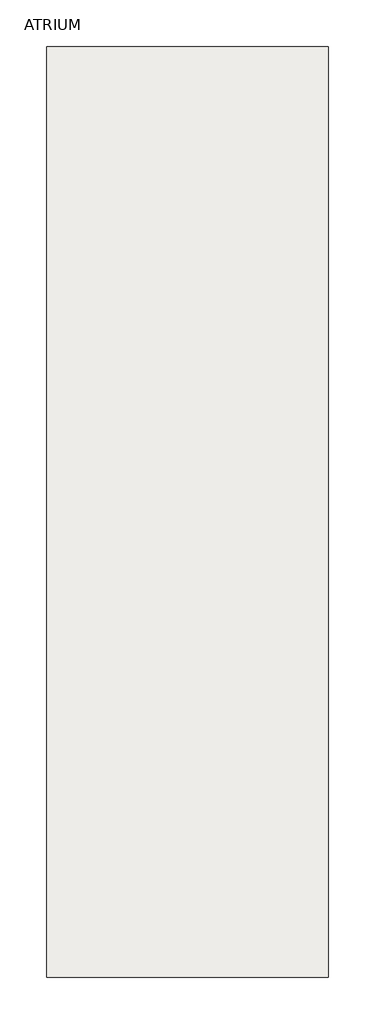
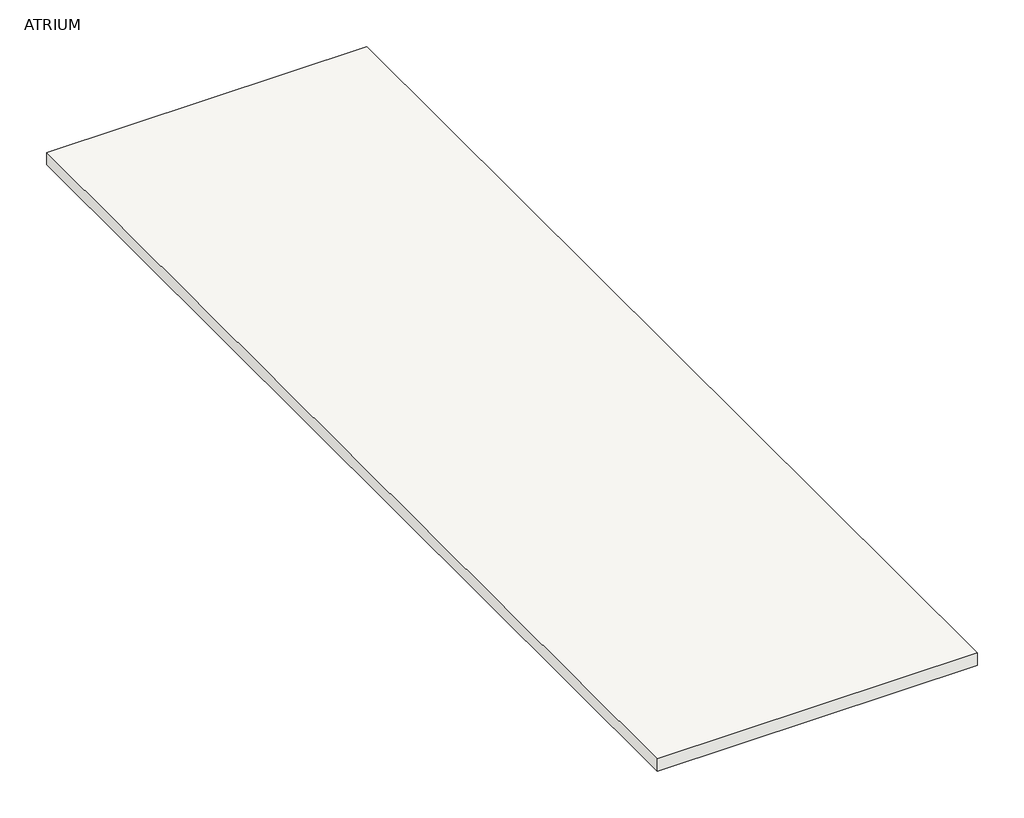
# One storey: 1 roof.
"""IFC4 building model written with IfcOpenShell, lengths in millimetres."""

import ifcopenshell
import ifcopenshell.guid

model = None  # the IFC model being written
_history = None  # IfcOwnerHistory: only IFC2X3 demands one
_inside = {}  # id of a spatial element -> (the spatial element, [elements in it])
_under = {}  # id of a project, library or spatial element -> (it, [spatial elements below it])
_declared = {}  # id of a project -> (the project, [libraries it declares])
_typed = {}  # id of a type object -> (the type object, [elements of that type])
_made_of = {}  # id of a material, layer set ... -> (it, [elements and type objects made of it])


def new_model(schema):
    """Start an empty IFC model of exactly this schema.

    Asked for "IFC4X3", IfcOpenShell would pick the latest addendum, in which some entities
    have other attributes; the version numbers below select the first issue.
    IFC2X3 requires an IfcOwnerHistory on every rooted entity: one is made here for all.
    """
    global model, _history
    if schema == "IFC4X3":
        model = ifcopenshell.file(schema_version=(4, 3, 0, 0))
    else:
        model = ifcopenshell.file(schema=schema)
    _inside.clear()
    _under.clear()
    _declared.clear()
    _typed.clear()
    _made_of.clear()
    _history = None
    if model.schema == "IFC2X3":
        org = make("IfcOrganization", Name="unknown")
        user = make(
            "IfcPersonAndOrganization",
            ThePerson=make("IfcPerson", FamilyName="unknown"),
            TheOrganization=org,
        )
        app = make(
            "IfcApplication",
            ApplicationDeveloper=org,
            Version="unknown",
            ApplicationFullName="unknown",
            ApplicationIdentifier="unknown",
        )
        _history = make(
            "IfcOwnerHistory",
            OwningUser=user,
            OwningApplication=app,
            ChangeAction="ADDED",
            CreationDate=0,
        )
    return model


def make(cls, **values):
    """One entity of the class cls with the attributes given. An attribute that is None is left unset."""
    return model.create_entity(
        cls, **{name: value for name, value in values.items() if value is not None}
    )


def rooted(cls, **values):
    """An entity with a GlobalId (a new one), such as an element, a storey or a relation."""
    return make(cls, GlobalId=ifcopenshell.guid.new(), OwnerHistory=_history, **values)


def si_unit(unit_type, name, prefix=None):
    """IfcSIUnit, for example si_unit("LENGTHUNIT", "METRE", prefix="MILLI")."""
    return make("IfcSIUnit", UnitType=unit_type, Prefix=prefix, Name=name)


def assignment(units):
    """IfcUnitAssignment: the units of a project."""
    return None if units is None else make("IfcUnitAssignment", Units=units)


def point(xyz):
    """IfcCartesianPoint."""
    return None if xyz is None else make("IfcCartesianPoint", Coordinates=xyz)


def direction(xyz):
    """IfcDirection."""
    return None if xyz is None else make("IfcDirection", DirectionRatios=xyz)


def frame(location, z_axis=None, x_axis=None):
    """IfcAxis2Placement3D, a coordinate frame: its origin and axes. An axis left out is left unset."""
    return make(
        "IfcAxis2Placement3D",
        Location=point(location),
        Axis=direction(z_axis),
        RefDirection=direction(x_axis),
    )


def origin():
    """The frame at (0, 0, 0) with its axes left unset."""
    return frame((0.0, 0.0, 0.0))


def place(relative_to, where):
    """IfcLocalPlacement: puts the frame where relative to a parent placement (None: the world)."""
    return make(
        "IfcLocalPlacement", PlacementRelTo=relative_to, RelativePlacement=where
    )


def context(
    kind, dimensions, precision=None, world=None, true_north=None, identifier=None
):
    """IfcGeometricRepresentationContext, for example the 3D "Model" context."""
    return make(
        "IfcGeometricRepresentationContext",
        ContextIdentifier=identifier,
        ContextType=kind,
        CoordinateSpaceDimension=dimensions,
        Precision=precision,
        WorldCoordinateSystem=world,
        TrueNorth=true_north,
    )


def project(units=None, contexts=None):
    """IfcProject with its units and contexts."""
    return rooted(
        "IfcProject",
        Name="project",
        RepresentationContexts=contexts,
        UnitsInContext=assignment(units),
    )


def spatial(cls, under=None, at=None, **own):
    """A site, building, storey or space (cls), placed at a placement, below another one or the project."""
    s = rooted(cls, ObjectPlacement=at, **own)
    if under is not None:
        _under.setdefault(under.id(), (under, []))[1].append(s)
    return s


def polyline(points):
    """IfcPolyline through the points."""
    return make("IfcPolyline", Points=[point(p) for p in points])


def outline(outer, holes=None, kind="AREA"):
    """IfcArbitraryClosedProfileDef: a profile drawn as a closed curve; with holes, ...WithVoids."""
    if holes is None:
        return make("IfcArbitraryClosedProfileDef", ProfileType=kind, OuterCurve=outer)
    return make(
        "IfcArbitraryProfileDefWithVoids",
        ProfileType=kind,
        OuterCurve=outer,
        InnerCurves=holes,
    )


def extrude(swept, where, along, depth):
    """IfcExtrudedAreaSolid: the profile swept, set in the frame where, extruded along a direction by depth."""
    return make(
        "IfcExtrudedAreaSolid",
        SweptArea=swept,
        Position=where,
        ExtrudedDirection=direction(along),
        Depth=depth,
    )


def shape(context_of_items, identifier, shape_type, items):
    """IfcShapeRepresentation: the items that make up one representation, for example the "Body"."""
    return make(
        "IfcShapeRepresentation",
        ContextOfItems=context_of_items,
        RepresentationIdentifier=identifier,
        RepresentationType=shape_type,
        Items=items,
    )


def made_of(thing, what):
    """Note that an element or type object is made of a material, layer set ...; save() writes the relation."""
    if what is not None:
        _made_of.setdefault(what.id(), (what, []))[1].append(thing)
    return thing


def element(
    cls,
    number,
    at=None,
    inside=None,
    cuts=None,
    type_object=None,
    material=None,
    context=None,
    identifier="Body",
    shape_type=None,
    held_by="IfcProductDefinitionShape",
    body=None,
    shapes=None,
    **own,
):
    """One element of the class cls, such as IfcWall. Its Tag is "e" and its number.

    at: its placement. inside: the storey or other place that contains it. cuts: it is an
    opening in that element (IfcRelVoidsElement). A single representation is given by context,
    identifier, shape_type and body (its items); several are given by shapes. held_by: the class
    of the entity that holds the representations. save() writes the other relations.
    """
    e = rooted(cls, Tag="e%d" % number, ObjectPlacement=at, **own)
    if body is not None:
        shapes = [shape(context, identifier, shape_type, body)]
    if shapes is not None:
        e.Representation = make(held_by, Representations=shapes)
    if inside is not None:
        _inside.setdefault(inside.id(), (inside, []))[1].append(e)
    if cuts is not None:
        rooted(
            "IfcRelVoidsElement", RelatingBuildingElement=cuts, RelatedOpeningElement=e
        )
    if type_object is not None:
        _typed.setdefault(type_object.id(), (type_object, []))[1].append(e)
    return made_of(e, material)


def aggregate(whole, parts):
    """IfcRelAggregates: a whole, such as a stair, and the parts it consists of."""
    return rooted("IfcRelAggregates", RelatingObject=whole, RelatedObjects=parts)


def save(model, path):
    """Write the relations noted so far, then the file.

    IfcRelAggregates (storeys below a building ...), IfcRelContainedInSpatialStructure (elements
    in a storey), IfcRelDefinesByType, IfcRelAssociatesMaterial and IfcRelDeclares: one each for
    every whole, place, type object, material and project.
    """
    for whole, parts in _under.values():
        aggregate(whole, parts)
    for where, things in _inside.values():
        rooted(
            "IfcRelContainedInSpatialStructure",
            RelatedElements=things,
            RelatingStructure=where,
        )
    for kind, things in _typed.values():
        rooted("IfcRelDefinesByType", RelatedObjects=things, RelatingType=kind)
    for what, things in _made_of.values():
        rooted("IfcRelAssociatesMaterial", RelatedObjects=things, RelatingMaterial=what)
    for by, libraries in _declared.values():
        rooted("IfcRelDeclares", RelatingContext=by, RelatedDefinitions=libraries)
    model.write(path)


model = new_model("IFC4")

# Units and contexts
model_context = context("Model", 3, world=origin())
ifc_project = project(units=[si_unit("LENGTHUNIT", "METRE", prefix="MILLI")], contexts=[model_context])

# Site, building, storey
site = spatial("IfcSite", under=ifc_project)
building = spatial("IfcBuilding", under=site)
storey = spatial("IfcBuildingStorey", under=building, Name="ATRIUM", Elevation=11000.0)

# Roof
placement = place(None, origin())
element("IfcRoof", 1, ObjectType="Roof_Generic400mm", at=placement, inside=storey, context=model_context, shape_type="SweptSolid", body=[
    extrude(outline(polyline([(444893.3206883, -373148.0026386), (457926.3206883, -373148.0026386), (457926.3206883, -416223.5526386), (444893.3206883, -416223.5526386), (444893.3206883, -373148.0026386)])), frame((0.0, 0.0, 11000.0), z_axis=(0.0, 0.0, 1.0), x_axis=(1.0, 0.0, 0.0)), (0.0, 0.0, 1.0), 525.0),
])

save(model, "model.ifc")
